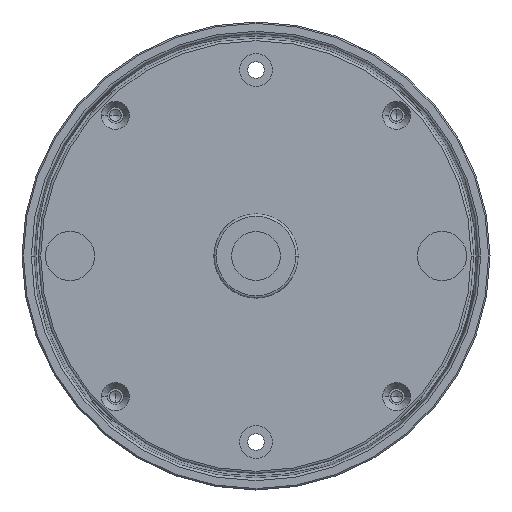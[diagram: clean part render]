
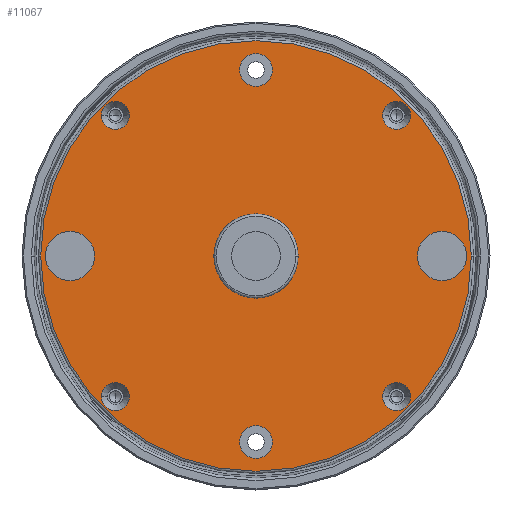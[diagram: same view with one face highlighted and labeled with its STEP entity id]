
A CAD part, front view. The second image highlights one B-rep face of the part: STEP entity #11067.
In plain terms, the highlighted planar face has unit normal (0, -1, 0).
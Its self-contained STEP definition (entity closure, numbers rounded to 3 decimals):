
#9998=CARTESIAN_POINT('',(39.75,0.2,0.));
#9999=DIRECTION('',(0.,1.,0.));
#10000=DIRECTION('',(-1.,0.,0.));
#10001=AXIS2_PLACEMENT_3D('',#9998,#9999,#10000);
#10003=CARTESIAN_POINT('',(39.75,0.2,0.));
#10004=DIRECTION('',(0.,1.,0.));
#10005=DIRECTION('',(1.,0.,0.));
#10006=AXIS2_PLACEMENT_3D('',#10003,#10004,#10005);
#10008=CARTESIAN_POINT('',(-39.75,0.2,0.));
#10009=DIRECTION('',(0.,1.,0.));
#10010=DIRECTION('',(-1.,0.,0.));
#10011=AXIS2_PLACEMENT_3D('',#10008,#10009,#10010);
#10013=CARTESIAN_POINT('',(-39.75,0.2,0.));
#10014=DIRECTION('',(0.,1.,0.));
#10015=DIRECTION('',(1.,0.,0.));
#10016=AXIS2_PLACEMENT_3D('',#10013,#10014,#10015);
#10018=CARTESIAN_POINT('',(0.,0.2,0.));
#10019=DIRECTION('',(0.,-1.,0.));
#10020=DIRECTION('',(-1.,0.,0.));
#10021=AXIS2_PLACEMENT_3D('',#10018,#10019,#10020);
#10023=CARTESIAN_POINT('',(0.,0.2,0.));
#10024=DIRECTION('',(0.,-1.,0.));
#10025=DIRECTION('',(1.,0.,0.));
#10026=AXIS2_PLACEMENT_3D('',#10023,#10024,#10025);
#10028=CARTESIAN_POINT('',(0.,0.2,0.));
#10029=DIRECTION('',(0.,-1.,0.));
#10030=DIRECTION('',(1.,0.,0.));
#10031=AXIS2_PLACEMENT_3D('',#10028,#10029,#10030);
#10033=CARTESIAN_POINT('',(0.,0.2,0.));
#10034=DIRECTION('',(0.,-1.,0.));
#10035=DIRECTION('',(-1.,0.,0.));
#10036=AXIS2_PLACEMENT_3D('',#10033,#10034,#10035);
#10038=CARTESIAN_POINT('',(-30.052,0.2,30.052));
#10039=DIRECTION('',(0.,1.,0.));
#10040=DIRECTION('',(-1.,0.,0.));
#10041=AXIS2_PLACEMENT_3D('',#10038,#10039,#10040);
#10043=CARTESIAN_POINT('',(-30.052,0.2,30.052));
#10044=DIRECTION('',(0.,1.,0.));
#10045=DIRECTION('',(1.,0.,0.));
#10046=AXIS2_PLACEMENT_3D('',#10043,#10044,#10045);
#10048=CARTESIAN_POINT('',(30.052,0.2,30.052));
#10049=DIRECTION('',(0.,1.,0.));
#10050=DIRECTION('',(-1.,0.,0.));
#10051=AXIS2_PLACEMENT_3D('',#10048,#10049,#10050);
#10053=CARTESIAN_POINT('',(30.052,0.2,30.052));
#10054=DIRECTION('',(0.,1.,0.));
#10055=DIRECTION('',(1.,0.,0.));
#10056=AXIS2_PLACEMENT_3D('',#10053,#10054,#10055);
#10058=CARTESIAN_POINT('',(30.052,0.2,-30.052));
#10059=DIRECTION('',(0.,1.,0.));
#10060=DIRECTION('',(-1.,0.,0.));
#10061=AXIS2_PLACEMENT_3D('',#10058,#10059,#10060);
#10063=CARTESIAN_POINT('',(30.052,0.2,-30.052));
#10064=DIRECTION('',(0.,1.,0.));
#10065=DIRECTION('',(1.,0.,0.));
#10066=AXIS2_PLACEMENT_3D('',#10063,#10064,#10065);
#10068=CARTESIAN_POINT('',(-30.052,0.2,-30.052));
#10069=DIRECTION('',(0.,1.,0.));
#10070=DIRECTION('',(-1.,0.,0.));
#10071=AXIS2_PLACEMENT_3D('',#10068,#10069,#10070);
#10073=CARTESIAN_POINT('',(-30.052,0.2,-30.052));
#10074=DIRECTION('',(0.,1.,0.));
#10075=DIRECTION('',(1.,0.,0.));
#10076=AXIS2_PLACEMENT_3D('',#10073,#10074,#10075);
#10078=CARTESIAN_POINT('',(0.,0.2,39.75));
#10079=DIRECTION('',(0.,-1.,0.));
#10080=DIRECTION('',(0.,0.,-1.));
#10081=AXIS2_PLACEMENT_3D('',#10078,#10079,#10080);
#10083=CARTESIAN_POINT('',(0.,0.2,39.75));
#10084=DIRECTION('',(0.,-1.,0.));
#10085=DIRECTION('',(0.,0.,1.));
#10086=AXIS2_PLACEMENT_3D('',#10083,#10084,#10085);
#10088=CARTESIAN_POINT('',(0.,0.2,-39.75));
#10089=DIRECTION('',(0.,-1.,0.));
#10090=DIRECTION('',(0.,0.,-1.));
#10091=AXIS2_PLACEMENT_3D('',#10088,#10089,#10090);
#10093=CARTESIAN_POINT('',(0.,0.2,-39.75));
#10094=DIRECTION('',(0.,-1.,0.));
#10095=DIRECTION('',(0.,0.,1.));
#10096=AXIS2_PLACEMENT_3D('',#10093,#10094,#10095);
#10544=CARTESIAN_POINT('',(-9.,0.2,0.));
#10545=CARTESIAN_POINT('',(9.,0.2,0.));
#10546=VERTEX_POINT('',#10544);
#10547=VERTEX_POINT('',#10545);
#10564=CARTESIAN_POINT('',(34.5,0.2,0.));
#10565=CARTESIAN_POINT('',(45.,0.2,0.));
#10566=VERTEX_POINT('',#10564);
#10567=VERTEX_POINT('',#10565);
#10568=CARTESIAN_POINT('',(-45.,0.2,0.));
#10569=CARTESIAN_POINT('',(-34.5,0.2,0.));
#10570=VERTEX_POINT('',#10568);
#10571=VERTEX_POINT('',#10569);
#10696=CARTESIAN_POINT('',(46.,0.2,0.));
#10697=CARTESIAN_POINT('',(-46.,0.2,0.));
#10698=VERTEX_POINT('',#10696);
#10699=VERTEX_POINT('',#10697);
#10720=CARTESIAN_POINT('',(-33.022,0.2,30.052));
#10721=CARTESIAN_POINT('',(-27.082,0.2,30.052));
#10722=VERTEX_POINT('',#10720);
#10723=VERTEX_POINT('',#10721);
#10728=CARTESIAN_POINT('',(27.082,0.2,30.052));
#10729=CARTESIAN_POINT('',(33.022,0.2,30.052));
#10730=VERTEX_POINT('',#10728);
#10731=VERTEX_POINT('',#10729);
#10736=CARTESIAN_POINT('',(27.082,0.2,-30.052));
#10737=CARTESIAN_POINT('',(33.022,0.2,-30.052));
#10738=VERTEX_POINT('',#10736);
#10739=VERTEX_POINT('',#10737);
#10744=CARTESIAN_POINT('',(-33.022,0.2,-30.052));
#10745=CARTESIAN_POINT('',(-27.082,0.2,-30.052));
#10746=VERTEX_POINT('',#10744);
#10747=VERTEX_POINT('',#10745);
#10760=CARTESIAN_POINT('',(0.,0.2,36.25));
#10761=CARTESIAN_POINT('',(0.,0.2,43.25));
#10762=VERTEX_POINT('',#10760);
#10763=VERTEX_POINT('',#10761);
#10764=CARTESIAN_POINT('',(0.,0.2,-43.25));
#10765=CARTESIAN_POINT('',(0.,0.2,-36.25));
#10766=VERTEX_POINT('',#10764);
#10767=VERTEX_POINT('',#10765);
#11004=CARTESIAN_POINT('',(0.,0.2,0.));
#11005=DIRECTION('',(0.,-1.,0.));
#11006=DIRECTION('',(-1.,0.,0.));
#11007=AXIS2_PLACEMENT_3D('',#11004,#11005,#11006);
#11008=PLANE('',#11007);
#11010=ORIENTED_EDGE('',*,*,#11009,.F.);
#11012=ORIENTED_EDGE('',*,*,#11011,.F.);
#11013=EDGE_LOOP('',(#11010,#11012));
#11014=FACE_OUTER_BOUND('',#11013,.F.);
#11016=ORIENTED_EDGE('',*,*,#11015,.F.);
#11018=ORIENTED_EDGE('',*,*,#11017,.F.);
#11019=EDGE_LOOP('',(#11016,#11018));
#11020=FACE_BOUND('',#11019,.F.);
#11022=ORIENTED_EDGE('',*,*,#11021,.T.);
#11024=ORIENTED_EDGE('',*,*,#11023,.T.);
#11025=EDGE_LOOP('',(#11022,#11024));
#11026=FACE_BOUND('',#11025,.F.);
#11027=ORIENTED_EDGE('',*,*,#10984,.F.);
#11028=ORIENTED_EDGE('',*,*,#10998,.F.);
#11029=EDGE_LOOP('',(#11027,#11028));
#11030=FACE_BOUND('',#11029,.F.);
#11032=ORIENTED_EDGE('',*,*,#11031,.F.);
#11034=ORIENTED_EDGE('',*,*,#11033,.F.);
#11035=EDGE_LOOP('',(#11032,#11034));
#11036=FACE_BOUND('',#11035,.F.);
#11038=ORIENTED_EDGE('',*,*,#11037,.F.);
#11040=ORIENTED_EDGE('',*,*,#11039,.F.);
#11041=EDGE_LOOP('',(#11038,#11040));
#11042=FACE_BOUND('',#11041,.F.);
#11044=ORIENTED_EDGE('',*,*,#11043,.F.);
#11046=ORIENTED_EDGE('',*,*,#11045,.F.);
#11047=EDGE_LOOP('',(#11044,#11046));
#11048=FACE_BOUND('',#11047,.F.);
#11050=ORIENTED_EDGE('',*,*,#11049,.F.);
#11052=ORIENTED_EDGE('',*,*,#11051,.F.);
#11053=EDGE_LOOP('',(#11050,#11052));
#11054=FACE_BOUND('',#11053,.F.);
#11056=ORIENTED_EDGE('',*,*,#11055,.T.);
#11058=ORIENTED_EDGE('',*,*,#11057,.T.);
#11059=EDGE_LOOP('',(#11056,#11058));
#11060=FACE_BOUND('',#11059,.F.);
#11062=ORIENTED_EDGE('',*,*,#11061,.T.);
#11064=ORIENTED_EDGE('',*,*,#11063,.T.);
#11065=EDGE_LOOP('',(#11062,#11064));
#11066=FACE_BOUND('',#11065,.F.);
#11067=ADVANCED_FACE('',(#11014,#11020,#11026,#11030,#11036,#11042,#11048,
#11054,#11060,#11066),#11008,.T.);
#10002=CIRCLE('',#10001,5.25);
#10007=CIRCLE('',#10006,5.25);
#10012=CIRCLE('',#10011,5.25);
#10017=CIRCLE('',#10016,5.25);
#10022=CIRCLE('',#10021,9.);
#10027=CIRCLE('',#10026,9.);
#10032=CIRCLE('',#10031,46.);
#10037=CIRCLE('',#10036,46.);
#10042=CIRCLE('',#10041,2.97);
#10047=CIRCLE('',#10046,2.97);
#10052=CIRCLE('',#10051,2.97);
#10057=CIRCLE('',#10056,2.97);
#10062=CIRCLE('',#10061,2.97);
#10067=CIRCLE('',#10066,2.97);
#10072=CIRCLE('',#10071,2.97);
#10077=CIRCLE('',#10076,2.97);
#10082=CIRCLE('',#10081,3.5);
#10087=CIRCLE('',#10086,3.5);
#10092=CIRCLE('',#10091,3.5);
#10097=CIRCLE('',#10096,3.5);
#10984=EDGE_CURVE('',#10566,#10567,#10002,.T.);
#10998=EDGE_CURVE('',#10567,#10566,#10007,.T.);
#11009=EDGE_CURVE('',#10698,#10699,#10032,.T.);
#11011=EDGE_CURVE('',#10699,#10698,#10037,.T.);
#11015=EDGE_CURVE('',#10570,#10571,#10012,.T.);
#11017=EDGE_CURVE('',#10571,#10570,#10017,.T.);
#11021=EDGE_CURVE('',#10546,#10547,#10022,.T.);
#11023=EDGE_CURVE('',#10547,#10546,#10027,.T.);
#11031=EDGE_CURVE('',#10722,#10723,#10042,.T.);
#11033=EDGE_CURVE('',#10723,#10722,#10047,.T.);
#11037=EDGE_CURVE('',#10730,#10731,#10052,.T.);
#11039=EDGE_CURVE('',#10731,#10730,#10057,.T.);
#11043=EDGE_CURVE('',#10738,#10739,#10062,.T.);
#11045=EDGE_CURVE('',#10739,#10738,#10067,.T.);
#11049=EDGE_CURVE('',#10746,#10747,#10072,.T.);
#11051=EDGE_CURVE('',#10747,#10746,#10077,.T.);
#11055=EDGE_CURVE('',#10762,#10763,#10082,.T.);
#11057=EDGE_CURVE('',#10763,#10762,#10087,.T.);
#11061=EDGE_CURVE('',#10766,#10767,#10092,.T.);
#11063=EDGE_CURVE('',#10767,#10766,#10097,.T.);
